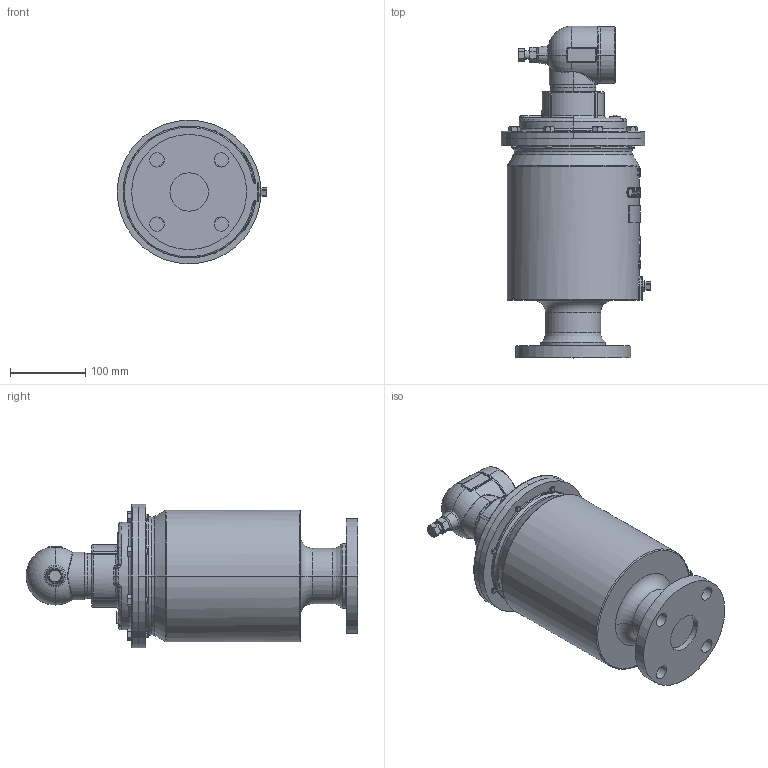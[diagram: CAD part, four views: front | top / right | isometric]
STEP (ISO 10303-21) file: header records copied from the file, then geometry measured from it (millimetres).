
FILE_DESCRIPTION (( 'STEP AP203' ), '1' );
FILE_NAME ('2in 33ATD Flat Face.STEP', '2017-05-03T21:55:14', ( '' ), ( '' ), 'SwSTEP 2.0', 'SolidWorks 2017', '' );
FILE_SCHEMA (( 'CONFIG_CONTROL_DESIGN' ));
Length unit declared in the file: inch
Products named in the file (8): Nameplate Screw_For assy; 2in TDE; 2in 33ATD Flat Face; 207224 2in BODY FLANGED 150A 33A_CAST STEEL; 10088 2in COVER 33A_CAST STEEL; Bolt .313-18 UNC  (67604)_0.88   67604-96H; .250 NPT SQ HD PIPE PLUG (67660)_STEEL CAD PL; Nameplate (C0022)
Assembly tree (15 placements, depth 2):
  2in 33ATD Flat Face
    207224 2in BODY FLANGED 150A 33A_CAST STEEL
    10088 2in COVER 33A_CAST STEEL
    Bolt .313-18 UNC  (67604)_0.88   67604-96H  x8
    .250 NPT SQ HD PIPE PLUG (67660)_STEEL CAD PL
    Nameplate (C0022)
    Nameplate Screw_For assy  x2
    2in TDE
Bounding box: 198.12 x 439.85 x 190.5 mm (x, y, z)
Volume: 6717466.2 mm3; surface area: 369463.2 mm2
Topology: 15 solids, 15 shells, 2059 faces, 5231 edges, 3401 vertices
Faces by surface type: plane 1122, bspline 553, cylinder 191, cone 127, torus 54, sphere 12
Entity records: 99319 total; most frequent: CARTESIAN_POINT 55421, ORIENTED_EDGE 9822, DIRECTION 6941, EDGE_CURVE 4911, VERTEX_POINT 3217, LINE 2959, VECTOR 2959, EDGE_LOOP 2142
